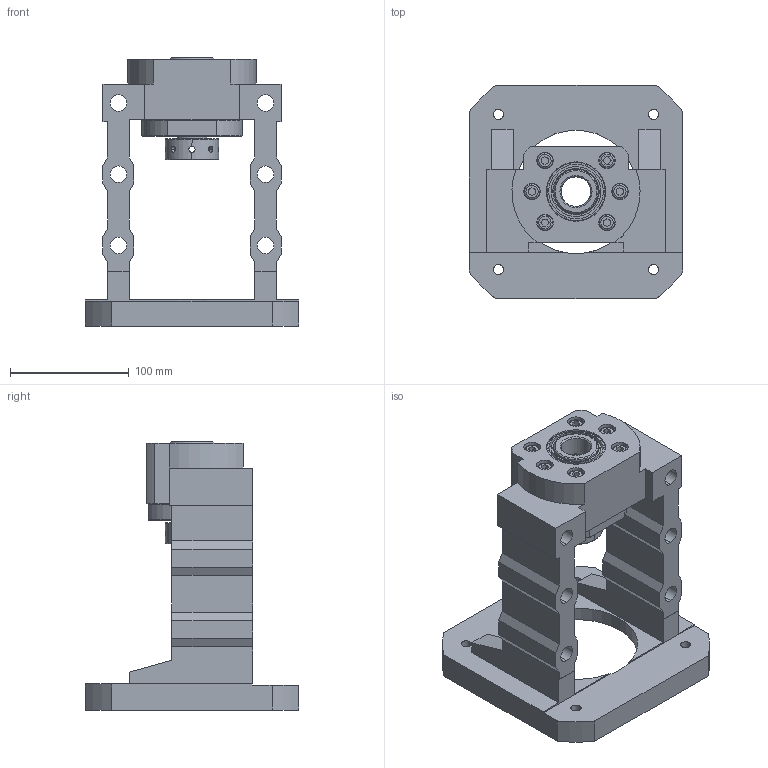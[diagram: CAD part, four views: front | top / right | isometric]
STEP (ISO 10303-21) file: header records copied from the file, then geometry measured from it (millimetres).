
FILE_DESCRIPTION (( 'STEP AP203' ), '1' );
FILE_NAME ('MBCS25-J²Õ¦X¥ó.STEP', '2024-09-03T05:45:38', ( '' ), ( '' ), 'SwSTEP 2.0', 'SolidWorks 2018', '' );
FILE_SCHEMA (( 'CONFIG_CONTROL_DESIGN' ));
Length unit declared in the file: millimetre
Products named in the file (1): MBCS25-J組合件
Bounding box: 180 x 180 x 226 mm (x, y, z)
Surface area: 212897.6 mm2 (no closed solid volume)
Topology: 0 solids, 23 shells, 337 faces, 947 edges, 627 vertices
Faces by surface type: plane 137, cylinder 110, cone 58, torus 26, bspline 6
Entity records: 20164 total; most frequent: CARTESIAN_POINT 11416, DIRECTION 1840, ORIENTED_EDGE 1677, EDGE_CURVE 939, AXIS2_PLACEMENT_3D 689, VERTEX_POINT 627, VECTOR 462, LINE 462
